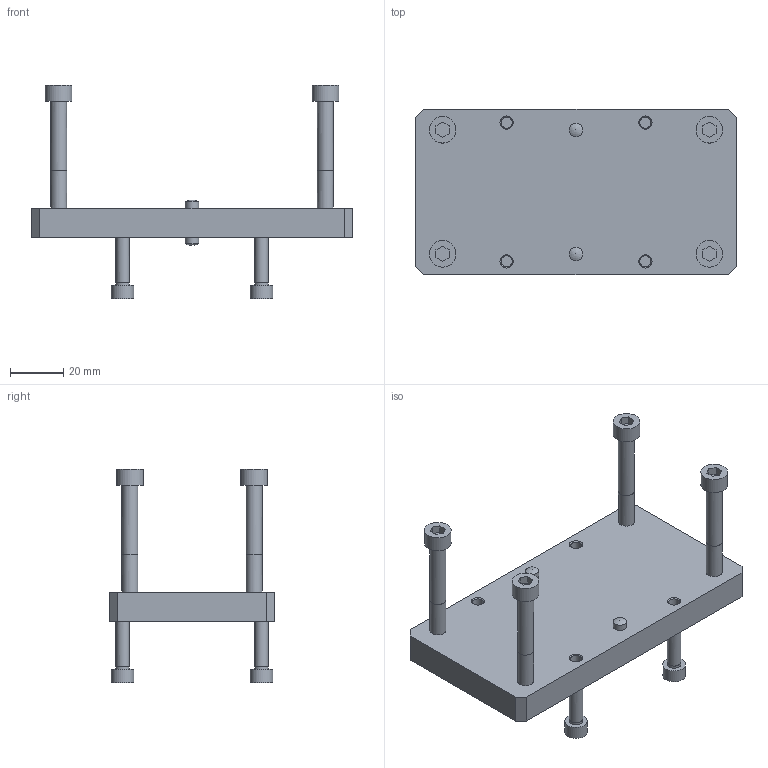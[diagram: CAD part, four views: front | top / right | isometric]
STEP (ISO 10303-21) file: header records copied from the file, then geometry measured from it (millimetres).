
FILE_DESCRIPTION( ( 'STEP AP214' ), '1' );
FILE_NAME( 'U:/Etudes/Top Solid/BIBLIO 3D AVM/STEP/N_ELECTRIQUE/Linéaires/Accessoires/8319117.step', '2006-07-05T10:05:36', ( ' ' ), ( ' ' ), 'XStep 1.0', ' ', ' ' );
FILE_SCHEMA( ( 'automotive_design' ) );
Length unit declared in the file: metre
Products named in the file (1): 1
Bounding box: 120 x 62 x 80 mm (x, y, z)
Volume: 90101.6 mm3; surface area: 25756.6 mm2
Topology: 1 solids, 5 shells, 150 faces, 336 edges, 224 vertices
Faces by surface type: plane 94, cylinder 40, cone 12, bspline 4
Full cylindrical faces by diameter (mm): 4.134 x4, 4.918 x4, 5 x16, 6 x8, 8.5 x4, 10 x4
Entity records: 5204 total; most frequent: CARTESIAN_POINT 975, DIRECTION 614, ORIENTED_EDGE 504, EDGE_CURVE 252, EDGE_LOOP 242, AXIS2_PLACEMENT_3D 223, VERTEX_POINT 200, FACE_OUTER_BOUND 190
